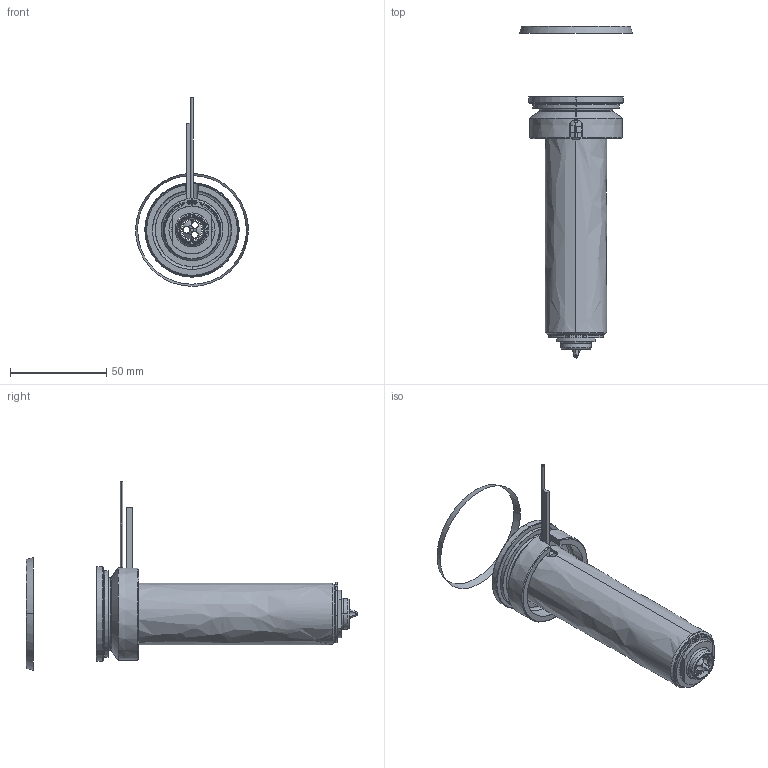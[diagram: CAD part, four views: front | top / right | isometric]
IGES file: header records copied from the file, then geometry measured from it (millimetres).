
Start section: SolidWorks IGES file using analytic representation for surfaces
Global section: file name: C:\Documents and Settings\ws-20\Desktop\TEM\UGEP5003-S-A-1 [Øf-1.55 ØC-13].IGS; native system: SolidWorks 2012; preprocessor: SolidWorks 2012; author: ws-20; date: 120426.102252; units: millimetre
Bounding box: 58.57 x 172.24 x 97.91 mm (x, y, z)
Surface area: 51892.1 mm2 (no closed solid volume)
Topology: 0 solids, 0 shells, 125 faces, 2382 edges, 2382 vertices
Faces by surface type: revolution 81, bspline 44
